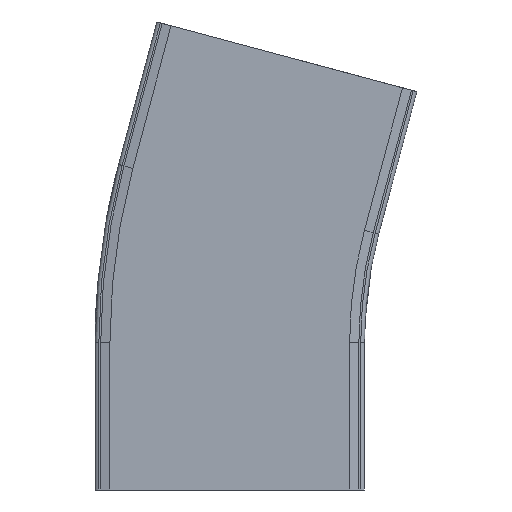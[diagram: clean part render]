
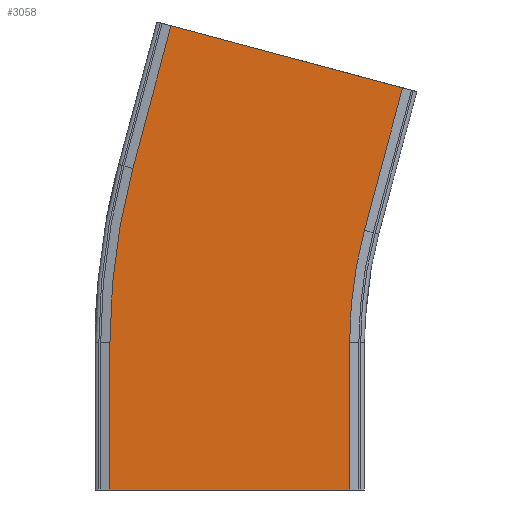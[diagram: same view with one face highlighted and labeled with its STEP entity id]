
A CAD part, front view. The second image highlights one B-rep face of the part: STEP entity #3058.
In plain terms, the highlighted planar face has unit normal (0, -1, 0).
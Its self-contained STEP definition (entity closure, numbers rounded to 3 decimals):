
#113=CIRCLE('',#3252,235.);
#114=CIRCLE('',#3254,365.);
#248=FACE_OUTER_BOUND('',#415,.T.);
#415=EDGE_LOOP('',(#2053,#2054,#2055,#2056,#2057,#2058,#2059,#2060));
#585=LINE('',#4286,#927);
#589=LINE('',#4293,#931);
#600=LINE('',#4326,#942);
#601=LINE('',#4328,#943);
#602=LINE('',#4329,#944);
#603=LINE('',#4330,#945);
#927=VECTOR('',#3480,10.);
#931=VECTOR('',#3486,10.);
#942=VECTOR('',#3517,10.);
#943=VECTOR('',#3518,10.);
#944=VECTOR('',#3519,10.);
#945=VECTOR('',#3520,10.);
#1269=VERTEX_POINT('',#4283);
#1270=VERTEX_POINT('',#4285);
#1272=VERTEX_POINT('',#4291);
#1281=VERTEX_POINT('',#4317);
#1282=VERTEX_POINT('',#4319);
#1283=VERTEX_POINT('',#4323);
#1284=VERTEX_POINT('',#4325);
#1285=VERTEX_POINT('',#4327);
#1569=EDGE_CURVE('',#1270,#1269,#585,.T.);
#1573=EDGE_CURVE('',#1272,#1269,#589,.T.);
#1586=EDGE_CURVE('',#1282,#1281,#113,.T.);
#1588=EDGE_CURVE('',#1283,#1272,#114,.T.);
#1589=EDGE_CURVE('',#1284,#1283,#600,.T.);
#1590=EDGE_CURVE('',#1284,#1285,#601,.T.);
#1591=EDGE_CURVE('',#1285,#1282,#602,.T.);
#1592=EDGE_CURVE('',#1281,#1270,#603,.T.);
#2053=ORIENTED_EDGE('',*,*,#1569,.T.);
#2054=ORIENTED_EDGE('',*,*,#1573,.F.);
#2055=ORIENTED_EDGE('',*,*,#1588,.F.);
#2056=ORIENTED_EDGE('',*,*,#1589,.F.);
#2057=ORIENTED_EDGE('',*,*,#1590,.T.);
#2058=ORIENTED_EDGE('',*,*,#1591,.T.);
#2059=ORIENTED_EDGE('',*,*,#1586,.T.);
#2060=ORIENTED_EDGE('',*,*,#1592,.T.);
#2943=PLANE('',#3253);
#3058=ADVANCED_FACE('',(#248),#2943,.T.);
#3252=AXIS2_PLACEMENT_3D('',#4320,#3510,#3511);
#3253=AXIS2_PLACEMENT_3D('',#4322,#3513,#3514);
#3254=AXIS2_PLACEMENT_3D('',#4324,#3515,#3516);
#3480=DIRECTION('',(-0.966,0.,0.259));
#3486=DIRECTION('',(0.259,0.,0.966));
#3510=DIRECTION('center_axis',(0.,1.,0.));
#3511=DIRECTION('ref_axis',(-1.,0.,0.));
#3513=DIRECTION('center_axis',(0.,-1.,0.));
#3514=DIRECTION('ref_axis',(-0.259,0.,-0.966));
#3515=DIRECTION('center_axis',(0.,1.,0.));
#3516=DIRECTION('ref_axis',(-1.,0.,0.));
#3517=DIRECTION('',(0.,0.,1.));
#3518=DIRECTION('',(1.,0.,0.));
#3519=DIRECTION('',(0.,0.,1.));
#3520=DIRECTION('',(0.259,0.,0.966));
#4283=CARTESIAN_POINT('',(7.143,-72.,251.743));
#4285=CARTESIAN_POINT('',(132.714,-72.,218.097));
#4286=CARTESIAN_POINT('',(99.872,-72.,226.896));
#4291=CARTESIAN_POINT('',(-13.562,-72.,174.469));
#4293=CARTESIAN_POINT('',(-54.595,-72.,21.331));
#4317=CARTESIAN_POINT('',(112.008,-72.,140.822));
#4319=CARTESIAN_POINT('',(104.001,-72.,80.));
#4320=CARTESIAN_POINT('Origin',(339.001,-72.,80.));
#4322=CARTESIAN_POINT('Origin',(70.975,-72.,-12.315));
#4323=CARTESIAN_POINT('',(-25.999,-72.,80.));
#4324=CARTESIAN_POINT('Origin',(339.001,-72.,80.));
#4325=CARTESIAN_POINT('',(-25.999,-72.,0.));
#4326=CARTESIAN_POINT('',(-25.999,-72.,0.));
#4327=CARTESIAN_POINT('',(104.001,-72.,0.));
#4328=CARTESIAN_POINT('',(-25.999,-72.,0.));
#4329=CARTESIAN_POINT('',(104.001,-72.,0.));
#4330=CARTESIAN_POINT('',(70.975,-72.,-12.315));
